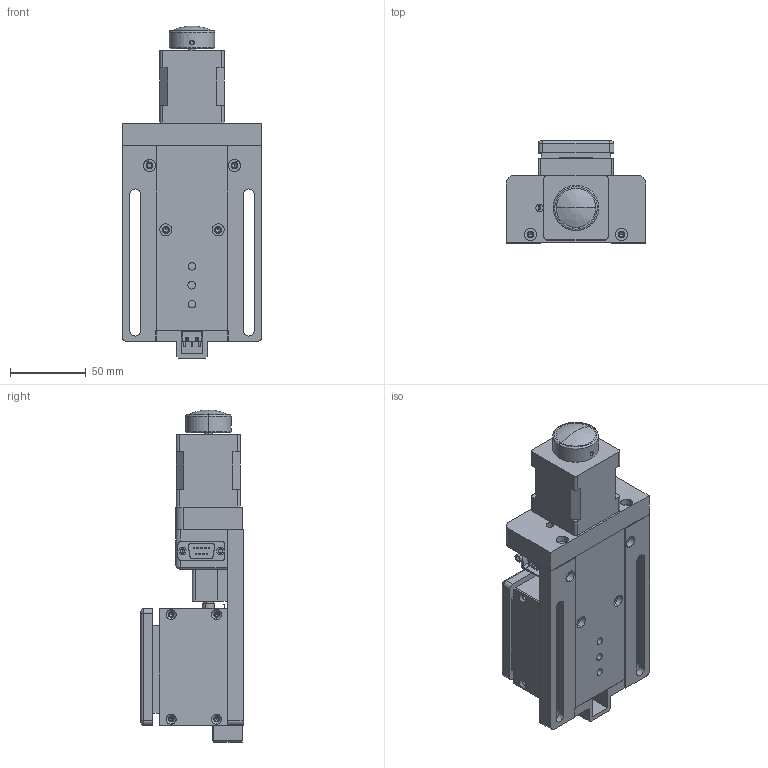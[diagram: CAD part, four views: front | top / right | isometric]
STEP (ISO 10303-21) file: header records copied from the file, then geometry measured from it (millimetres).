
FILE_DESCRIPTION (( 'STEP AP203' ), '1' );
FILE_NAME ('04VA10×°Åä.STEP', '2016-06-08T07:50:47', ( 'PC' ), ( 'Microsoft' ), 'SwSTEP 2.0', 'SolidWorks 2010', '' );
FILE_SCHEMA (( 'CONFIG_CONTROL_DESIGN' ));
Length unit declared in the file: millimetre
Products named in the file (24): 04VA10蹟譫; 04VA10虼輸; 幗粣; 04VA10蹟裝; 606旮僱⑩粣創; 薊粣ん誘欶; 絳寢; 04VA10綴結啣; 粣創釱; 大压圈; СѹȦ; 04VA10蚾饜; 04VA10菁啣; 04VA10萇儂釱; 42祭輛萇儂; 42萇儂忒謫; 6186旮僱⑩粣創; 9渀諉諳; LK8C14-朴5-朴5; 04VA10虼啣; 苤儂迮羲壽; 04VA10奻啣; 04VA10ヶ結啣; 04VA10誘啣
Assembly tree (29 placements, depth 2):
  04VA10蚾饜
    04VA10菁啣
    42萇儂忒謫
    04VA10虼啣
    苤儂迮羲壽  x2
    04VA10蹟裝
    絳寢  x4
    606旮僱⑩粣創  x2
    04VA10誘啣  x2
    04VA10虼輸
    粣創釱
    薊粣ん誘欶
    42祭輛萇儂
    9渀諉諳
    幗粣
    04VA10蹟譫
    大压圈
    04VA10萇儂釱
    04VA10奻啣
    LK8C14-朴5-朴5
    6186旮僱⑩粣創
    04VA10綴結啣
    04VA10ヶ結啣
    СѹȦ
Bounding box: 92 x 67.5 x 219 mm (x, y, z)
Volume: 416322.6 mm3; surface area: 159196.5 mm2
Topology: 28 solids, 30 shells, 1059 faces, 2664 edges, 1687 vertices
Faces by surface type: cylinder 472, plane 433, cone 126, bspline 24, torus 4
Entity records: 32241 total; most frequent: CARTESIAN_POINT 6361, DIRECTION 5052, ORIENTED_EDGE 4580, EDGE_CURVE 2294, AXIS2_PLACEMENT_3D 1882, VERTEX_POINT 1499, LINE 1288, VECTOR 1288
